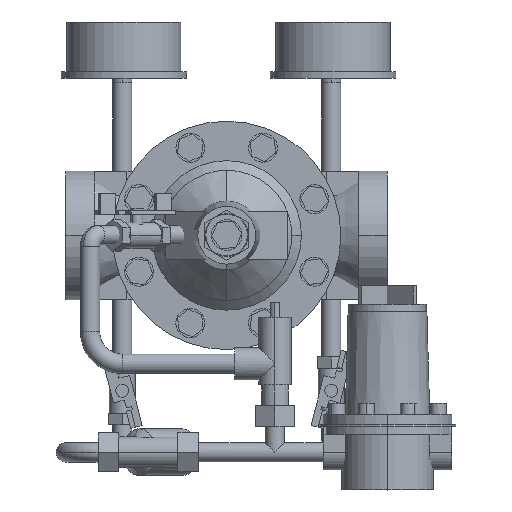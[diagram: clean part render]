
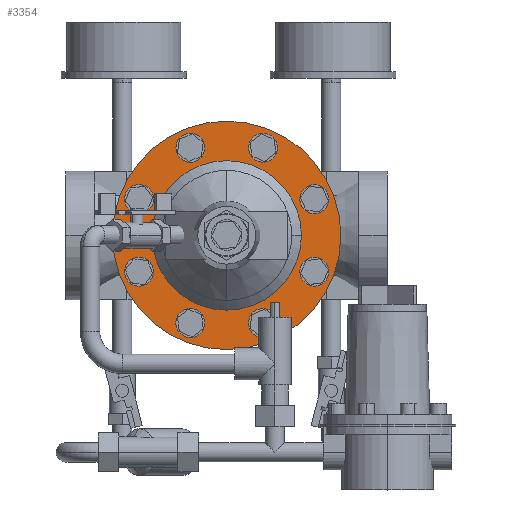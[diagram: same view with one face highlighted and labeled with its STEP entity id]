
A CAD part, top view. The second image highlights one B-rep face of the part: STEP entity #3354.
In plain terms, the highlighted planar face has unit normal (0, 0, 1).
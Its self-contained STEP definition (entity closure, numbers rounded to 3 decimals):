
#3354=ADVANCED_FACE('',(#6796),#6797,.T.);
#6796=FACE_OUTER_BOUND('',#11567,.T.);
#6797=PLANE('',#11568);
#11567=EDGE_LOOP('',(#16320,#16321));
#11568=AXIS2_PLACEMENT_3D('',#16322,#16323,#16324);
#16320=ORIENTED_EDGE('',*,*,#25709,.F.);
#16321=ORIENTED_EDGE('',*,*,#25710,.F.);
#16322=CARTESIAN_POINT('',(100.0,0.0,60.0));
#16323=DIRECTION('',(0.,0.0,1.0));
#16324=DIRECTION('',(-1.0,0.0,0.));
#25709=EDGE_CURVE('',#30298,#30299,#30300,.T.);
#25710=EDGE_CURVE('',#30299,#30298,#30301,.T.);
#30298=VERTEX_POINT('',#36588);
#30299=VERTEX_POINT('',#36589);
#30300=CIRCLE('',#36590,71.0);
#30301=CIRCLE('',#36591,71.0);
#36588=CARTESIAN_POINT('',(29.0,0.0,60.0));
#36589=CARTESIAN_POINT('',(171.0,0.,60.0));
#36590=AXIS2_PLACEMENT_3D('',#54556,#54557,#54558);
#36591=AXIS2_PLACEMENT_3D('',#54559,#54560,#54561);
#54556=CARTESIAN_POINT('',(100.0,0.0,60.0));
#54557=DIRECTION('',(0.,0.0,-1.0));
#54558=DIRECTION('',(-1.0,0.0,0.));
#54559=CARTESIAN_POINT('',(100.0,0.0,60.0));
#54560=DIRECTION('',(0.,0.0,-1.0));
#54561=DIRECTION('',(-1.0,0.0,0.));
